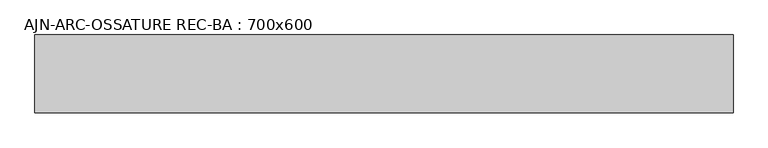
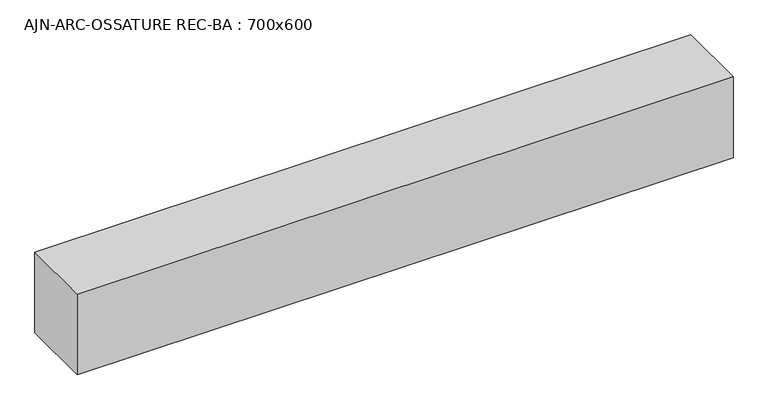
"""IFC4 building model written with IfcOpenShell, lengths in millimetres: beam geometry, AJN-ARC-OSSATURE REC-BA : 700x600."""

from ifc_helpers import new_model, si_unit, frame, origin, place, context, project, spatial, polyline, outline, extrude, source, transform, mapped, element, save


def ajn_arc_ossature_rec_ba_700x600_5c9015f2(model_context):
    return source(origin(), model_context, "Body", "SweptSolid", [
        extrude(outline(polyline([(2687.2999994, 300.0), (2687.2999994, -300.0), (-2687.2999994, -300.0), (-2687.2999994, 300.0), (2687.2999994, 300.0)])), frame((0.0, 0.0, -350.0), z_axis=(0.0, 0.0, 1.0), x_axis=(1.0, 0.0, 0.0)), (0.0, 0.0, 1.0), 700.0),
    ])


if __name__ == "__main__":
    model = new_model("IFC4")
    model_context = context("Model", 3, world=origin())
    ifc_project = project(units=[si_unit("LENGTHUNIT", "METRE", prefix="MILLI")], contexts=[model_context])
    site = spatial("IfcSite", under=ifc_project)
    building = spatial("IfcBuilding", under=site)
    placement = place(None, origin())
    ajn_arc_ossature_rec_ba_700x600_shape = ajn_arc_ossature_rec_ba_700x600_5c9015f2(model_context)
    element("IfcBeam", 1, ObjectType="AJN-ARC-OSSATURE REC-BA : 700x600", at=placement, inside=building, context=model_context, shape_type="MappedRepresentation", body=[
        mapped(ajn_arc_ossature_rec_ba_700x600_shape, transform((0.0, 0.0, 0.0), x_axis=(1.0, 0.0, 0.0), y_axis=(0.0, 1.0, 0.0), z_axis=(0.0, 0.0, 1.0))),
    ])
    save(model, "model.ifc")
